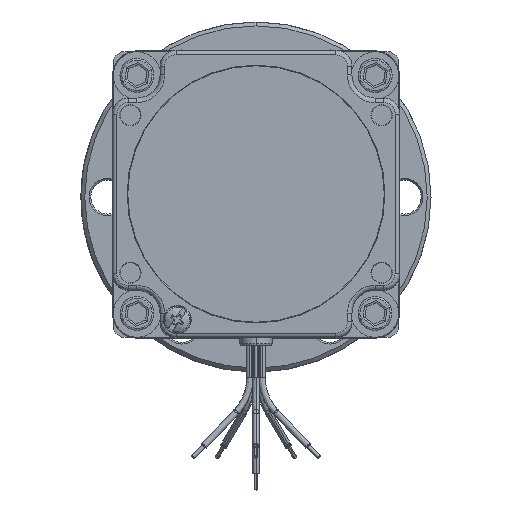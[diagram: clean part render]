
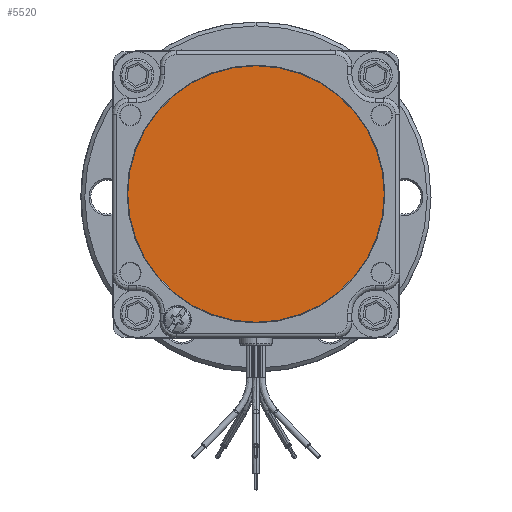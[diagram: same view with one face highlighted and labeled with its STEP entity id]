
A CAD part, top view. The second image highlights one B-rep face of the part: STEP entity #5520.
In plain terms, the highlighted planar face has unit normal (0, 0, 1).
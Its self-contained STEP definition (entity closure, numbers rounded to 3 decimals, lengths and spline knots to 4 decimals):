
#5520 = ADVANCED_FACE ( 'NONE', ( #16039 ), #59861, .T. ) ;
#8057 = EDGE_CURVE ( 'NONE', #60972, #60222, #72916, .T. ) ;
#11351 = EDGE_CURVE ( 'NONE', #60222, #60972, #104061, .T. ) ;
#16039 = FACE_OUTER_BOUND ( 'NONE', #91433, .T. ) ;
#55412 = AXIS2_PLACEMENT_3D ( 'NONE', #59846, #59864, #59866 ) ;
#59846 = CARTESIAN_POINT ( 'NONE',  ( 0., 0., 35.6032 ) ) ;
#59861 = PLANE ( 'NONE',  #55412 ) ;
#59864 = DIRECTION ( 'NONE',  ( 0., 0., 1. ) ) ;
#59866 = DIRECTION ( 'NONE',  ( 0., -1., 0. ) ) ;
#60222 = VERTEX_POINT ( 'NONE', #121957 ) ;
#60972 = VERTEX_POINT ( 'NONE', #122369 ) ;
#72916 = CIRCLE ( 'NONE', #80686, 2.54 ) ;
#80686 = AXIS2_PLACEMENT_3D ( 'NONE', #82970, #82972, #82974 ) ;
#81201 = AXIS2_PLACEMENT_3D ( 'NONE', #107294, #107297, #107301 ) ;
#82970 = CARTESIAN_POINT ( 'NONE',  ( 0., 0., 35.6032 ) ) ;
#82972 = DIRECTION ( 'NONE',  ( 0., 0., 1. ) ) ;
#82974 = DIRECTION ( 'NONE',  ( 0., 1., 0. ) ) ;
#91433 = EDGE_LOOP ( 'NONE', ( #112319, #112334 ) ) ;
#104061 = CIRCLE ( 'NONE', #81201, 2.54 ) ;
#107294 = CARTESIAN_POINT ( 'NONE',  ( 0., 0., 35.6032 ) ) ;
#107297 = DIRECTION ( 'NONE',  ( 0., 0., 1. ) ) ;
#107301 = DIRECTION ( 'NONE',  ( 0., 1., 0. ) ) ;
#112319 = ORIENTED_EDGE ( 'NONE', *, *, #8057, .T. ) ;
#112334 = ORIENTED_EDGE ( 'NONE', *, *, #11351, .T. ) ;
#121957 = CARTESIAN_POINT ( 'NONE',  ( 0., -2.54, 35.6032 ) ) ;
#122369 = CARTESIAN_POINT ( 'NONE',  ( 0., 2.54, 35.6032 ) ) ;
